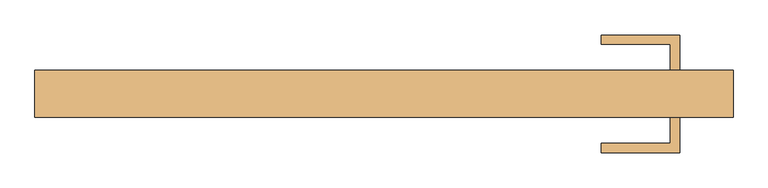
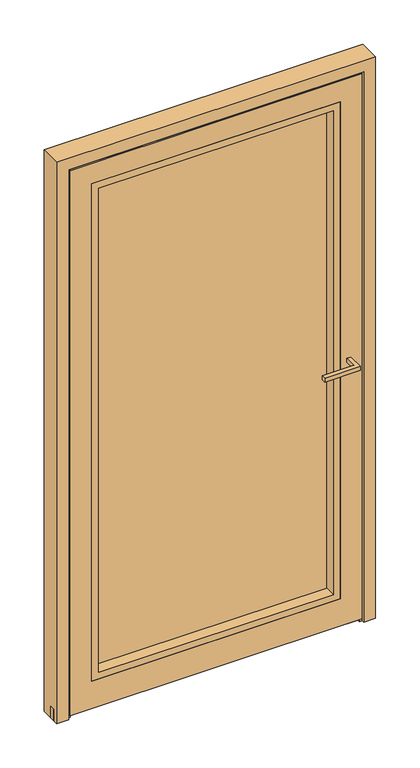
"""IFC4 building model written with IfcOpenShell, lengths in millimetres: door geometry, Reynaers_MasterLine 8_Door_Plinth_Inward Opening_Single Vent : Reynaers_MasterLine 8_Door_Plinth_Inward Opening_Single Vent."""

import ifcopenshell
import ifcopenshell.guid

model = None  # the IFC model being written
_history = None  # IfcOwnerHistory: only IFC2X3 demands one
_inside = {}  # id of a spatial element -> (the spatial element, [elements in it])
_under = {}  # id of a project, library or spatial element -> (it, [spatial elements below it])
_declared = {}  # id of a project -> (the project, [libraries it declares])
_typed = {}  # id of a type object -> (the type object, [elements of that type])
_made_of = {}  # id of a material, layer set ... -> (it, [elements and type objects made of it])


def new_model(schema):
    """Start an empty IFC model of exactly this schema.

    Asked for "IFC4X3", IfcOpenShell would pick the latest addendum, in which some entities
    have other attributes; the version numbers below select the first issue.
    IFC2X3 requires an IfcOwnerHistory on every rooted entity: one is made here for all.
    """
    global model, _history
    if schema == "IFC4X3":
        model = ifcopenshell.file(schema_version=(4, 3, 0, 0))
    else:
        model = ifcopenshell.file(schema=schema)
    _inside.clear()
    _under.clear()
    _declared.clear()
    _typed.clear()
    _made_of.clear()
    _history = None
    if model.schema == "IFC2X3":
        org = make("IfcOrganization", Name="unknown")
        user = make(
            "IfcPersonAndOrganization",
            ThePerson=make("IfcPerson", FamilyName="unknown"),
            TheOrganization=org,
        )
        app = make(
            "IfcApplication",
            ApplicationDeveloper=org,
            Version="unknown",
            ApplicationFullName="unknown",
            ApplicationIdentifier="unknown",
        )
        _history = make(
            "IfcOwnerHistory",
            OwningUser=user,
            OwningApplication=app,
            ChangeAction="ADDED",
            CreationDate=0,
        )
    return model


def make(cls, **values):
    """One entity of the class cls with the attributes given. An attribute that is None is left unset."""
    return model.create_entity(
        cls, **{name: value for name, value in values.items() if value is not None}
    )


def rooted(cls, **values):
    """An entity with a GlobalId (a new one), such as an element, a storey or a relation."""
    return make(cls, GlobalId=ifcopenshell.guid.new(), OwnerHistory=_history, **values)


def si_unit(unit_type, name, prefix=None):
    """IfcSIUnit, for example si_unit("LENGTHUNIT", "METRE", prefix="MILLI")."""
    return make("IfcSIUnit", UnitType=unit_type, Prefix=prefix, Name=name)


def assignment(units):
    """IfcUnitAssignment: the units of a project."""
    return None if units is None else make("IfcUnitAssignment", Units=units)


def point(xyz):
    """IfcCartesianPoint."""
    return None if xyz is None else make("IfcCartesianPoint", Coordinates=xyz)


def direction(xyz):
    """IfcDirection."""
    return None if xyz is None else make("IfcDirection", DirectionRatios=xyz)


def frame(location, z_axis=None, x_axis=None):
    """IfcAxis2Placement3D, a coordinate frame: its origin and axes. An axis left out is left unset."""
    return make(
        "IfcAxis2Placement3D",
        Location=point(location),
        Axis=direction(z_axis),
        RefDirection=direction(x_axis),
    )


def origin():
    """The frame at (0, 0, 0) with its axes left unset."""
    return frame((0.0, 0.0, 0.0))


def place(relative_to, where):
    """IfcLocalPlacement: puts the frame where relative to a parent placement (None: the world)."""
    return make(
        "IfcLocalPlacement", PlacementRelTo=relative_to, RelativePlacement=where
    )


def context(
    kind, dimensions, precision=None, world=None, true_north=None, identifier=None
):
    """IfcGeometricRepresentationContext, for example the 3D "Model" context."""
    return make(
        "IfcGeometricRepresentationContext",
        ContextIdentifier=identifier,
        ContextType=kind,
        CoordinateSpaceDimension=dimensions,
        Precision=precision,
        WorldCoordinateSystem=world,
        TrueNorth=true_north,
    )


def project(units=None, contexts=None):
    """IfcProject with its units and contexts."""
    return rooted(
        "IfcProject",
        Name="project",
        RepresentationContexts=contexts,
        UnitsInContext=assignment(units),
    )


def spatial(cls, under=None, at=None, **own):
    """A site, building, storey or space (cls), placed at a placement, below another one or the project."""
    s = rooted(cls, ObjectPlacement=at, **own)
    if under is not None:
        _under.setdefault(under.id(), (under, []))[1].append(s)
    return s


def polyline(points):
    """IfcPolyline through the points."""
    return make("IfcPolyline", Points=[point(p) for p in points])


def outline(outer, holes=None, kind="AREA"):
    """IfcArbitraryClosedProfileDef: a profile drawn as a closed curve; with holes, ...WithVoids."""
    if holes is None:
        return make("IfcArbitraryClosedProfileDef", ProfileType=kind, OuterCurve=outer)
    return make(
        "IfcArbitraryProfileDefWithVoids",
        ProfileType=kind,
        OuterCurve=outer,
        InnerCurves=holes,
    )


def extrude(swept, where, along, depth):
    """IfcExtrudedAreaSolid: the profile swept, set in the frame where, extruded along a direction by depth."""
    return make(
        "IfcExtrudedAreaSolid",
        SweptArea=swept,
        Position=where,
        ExtrudedDirection=direction(along),
        Depth=depth,
    )


def faces_of(points, faces, orient=None, outer=None):
    """IfcFace entities. A face is a list of loops; a loop is a list of indices into points, from 0.

    orient and outer hold one flag for each loop. By default every Orientation is true, the
    first loop of a face is its IfcFaceOuterBound and the others are IfcFaceBound.
    """
    made = []
    for i, loops in enumerate(faces):
        bounds = []
        for j, loop in enumerate(loops):
            is_outer = j == 0 if outer is None else outer[i][j]
            bounds.append(
                make(
                    "IfcFaceOuterBound" if is_outer else "IfcFaceBound",
                    Bound=make("IfcPolyLoop", Polygon=[points[k] for k in loop]),
                    Orientation=True if orient is None else orient[i][j],
                )
            )
        made.append(make("IfcFace", Bounds=bounds))
    return made


def faceted_brep(points, faces, orient=None, outer=None, voids=None):
    """IfcFacetedBrep: a solid bounded by flat faces; with voids (closed shells), ...WithVoids."""
    shared = [point(p) for p in points]
    hull = make("IfcClosedShell", CfsFaces=faces_of(shared, faces, orient, outer))
    if voids is None:
        return make("IfcFacetedBrep", Outer=hull)
    return make(
        "IfcFacetedBrepWithVoids",
        Outer=hull,
        Voids=[
            make(cls, CfsFaces=faces_of(shared, fs, o, b)) for cls, fs, o, b in voids
        ],
    )


def shape(context_of_items, identifier, shape_type, items):
    """IfcShapeRepresentation: the items that make up one representation, for example the "Body"."""
    return make(
        "IfcShapeRepresentation",
        ContextOfItems=context_of_items,
        RepresentationIdentifier=identifier,
        RepresentationType=shape_type,
        Items=items,
    )


def source(mapping_origin, context_of_items, identifier, shape_type, items):
    """IfcRepresentationMap: a shape defined once, which mapped items show again and again."""
    return make(
        "IfcRepresentationMap",
        MappingOrigin=mapping_origin,
        MappedRepresentation=shape(context_of_items, identifier, shape_type, items),
    )


def transform(
    local_origin,
    x_axis=None,
    y_axis=None,
    z_axis=None,
    scale=None,
    scale2=None,
    scale3=None,
    uniform=True,
):
    """IfcCartesianTransformationOperator3D, or its non-uniform kind. x_axis, y_axis, z_axis: its Axis1, 2, 3."""
    if uniform:
        return make(
            "IfcCartesianTransformationOperator3D",
            Axis1=direction(x_axis),
            Axis2=direction(y_axis),
            LocalOrigin=point(local_origin),
            Scale=scale,
            Axis3=direction(z_axis),
        )
    return make(
        "IfcCartesianTransformationOperator3DnonUniform",
        Axis1=direction(x_axis),
        Axis2=direction(y_axis),
        LocalOrigin=point(local_origin),
        Scale=scale,
        Axis3=direction(z_axis),
        Scale2=scale2,
        Scale3=scale3,
    )


def mapped(mapping_source, mapping_target):
    """IfcMappedItem: shows the shape of a source again, moved by a transform."""
    return make(
        "IfcMappedItem", MappingSource=mapping_source, MappingTarget=mapping_target
    )


def made_of(thing, what):
    """Note that an element or type object is made of a material, layer set ...; save() writes the relation."""
    if what is not None:
        _made_of.setdefault(what.id(), (what, []))[1].append(thing)
    return thing


def element(
    cls,
    number,
    at=None,
    inside=None,
    cuts=None,
    type_object=None,
    material=None,
    context=None,
    identifier="Body",
    shape_type=None,
    held_by="IfcProductDefinitionShape",
    body=None,
    shapes=None,
    **own,
):
    """One element of the class cls, such as IfcWall. Its Tag is "e" and its number.

    at: its placement. inside: the storey or other place that contains it. cuts: it is an
    opening in that element (IfcRelVoidsElement). A single representation is given by context,
    identifier, shape_type and body (its items); several are given by shapes. held_by: the class
    of the entity that holds the representations. save() writes the other relations.
    """
    e = rooted(cls, Tag="e%d" % number, ObjectPlacement=at, **own)
    if body is not None:
        shapes = [shape(context, identifier, shape_type, body)]
    if shapes is not None:
        e.Representation = make(held_by, Representations=shapes)
    if inside is not None:
        _inside.setdefault(inside.id(), (inside, []))[1].append(e)
    if cuts is not None:
        rooted(
            "IfcRelVoidsElement", RelatingBuildingElement=cuts, RelatedOpeningElement=e
        )
    if type_object is not None:
        _typed.setdefault(type_object.id(), (type_object, []))[1].append(e)
    return made_of(e, material)


def aggregate(whole, parts):
    """IfcRelAggregates: a whole, such as a stair, and the parts it consists of."""
    return rooted("IfcRelAggregates", RelatingObject=whole, RelatedObjects=parts)


def save(model, path):
    """Write the relations noted so far, then the file.

    IfcRelAggregates (storeys below a building ...), IfcRelContainedInSpatialStructure (elements
    in a storey), IfcRelDefinesByType, IfcRelAssociatesMaterial and IfcRelDeclares: one each for
    every whole, place, type object, material and project.
    """
    for whole, parts in _under.values():
        aggregate(whole, parts)
    for where, things in _inside.values():
        rooted(
            "IfcRelContainedInSpatialStructure",
            RelatedElements=things,
            RelatingStructure=where,
        )
    for kind, things in _typed.values():
        rooted("IfcRelDefinesByType", RelatedObjects=things, RelatingType=kind)
    for what, things in _made_of.values():
        rooted("IfcRelAssociatesMaterial", RelatedObjects=things, RelatingMaterial=what)
    for by, libraries in _declared.values():
        rooted("IfcRelDeclares", RelatingContext=by, RelatedDefinitions=libraries)
    model.write(path)


def door_1cca69b3(model_context):
    return source(origin(), model_context, "Body", "SolidModel", [
        extrude(outline(polyline([(482.5, 53.7), (467.5, 53.7), (467.5, 96.2), (355.0, 96.2), (355.0, 111.2), (482.5, 111.2), (482.5, 53.7)])), frame((0.0, 0.0, 1001.0), z_axis=(0.0, 0.0, 1.0), x_axis=(1.0, 0.0, 0.0)), (0.0, 0.0, 1.0), 15.0),
        extrude(outline(polyline([(482.5, -23.3), (482.5, -80.8), (355.0, -80.8), (355.0, -65.8), (467.5, -65.8), (467.5, -23.3), (482.5, -23.3)])), frame((0.0, 0.0, 1001.0), z_axis=(0.0, 0.0, 1.0), x_axis=(1.0, 0.0, 0.0)), (0.0, 0.0, 1.0), 15.0),
        extrude(outline(polyline([(436.0, 45.7), (436.0, 21.7), (-436.0, 21.7), (-436.0, 45.7), (436.0, 45.7)])), frame((0.0, 0.0, 125.0), z_axis=(0.0, 0.0, 1.0), x_axis=(1.0, 0.0, 0.0)), (0.0, 0.0, 1.0), 1861.0),
        faceted_brep([(-521.5, -23.3, 14.0), (-521.5, -19.5, 14.0), (-506.5, -19.5, 14.0), (-506.5, -19.3036628, 14.0), (506.5, -19.3036628, 14.0), (506.5, -19.5, 14.0), (521.5, -19.5, 14.0), (521.5, -23.3, 14.0), (-495.5, 49.9, 14.0), (-495.5, 53.7, 14.0), (495.5, 53.7, 14.0), (495.5, 49.9, 14.0), (521.5, -23.3, 2071.5), (-521.5, -23.3, 2071.5), (444.0000003, -23.3, 1994.0000003), (444.0000003, -23.3, 117.0), (-444.0000003, -23.3, 117.0), (-444.0000003, -23.3, 1994.0000003), (-521.5, -19.5, 2071.5), (-521.5, -19.5, 44.0), (-521.5, -21.3, 44.0), (-521.5, -21.3, 15.5), (-521.5, -19.5, 15.5), (-506.5, -19.5, 15.5), (506.5, -19.5, 15.5), (521.5, -19.5, 15.5), (521.5, -19.5, 2071.5), (521.5, -19.5, 44.0), (506.5, -19.5, 44.0), (506.5, -19.5, 2056.5), (-506.5, -19.5, 2056.5), (-506.5, -19.5, 44.0), (-506.5, -19.3036628, 15.5), (-506.5, 44.9001837, 2056.5), (-506.5, 44.9001837, 44.0), (506.5, 44.9001837, 2056.5), (506.5, 44.9001837, 44.0), (495.5, 44.9001837, 44.0), (495.5, 44.9001837, 2045.5), (-495.5, 44.9001837, 2045.5), (-495.5, 44.9001837, 44.0), (-495.5, 53.7, 2045.5), (-495.5, 49.9, 15.5), (-495.5, 51.7000025, 15.5), (-495.5, 51.7000025, 44.0), (495.5, 53.7, 2045.5), (-417.0, 53.7, 1967.0), (-417.0, 53.7, 144.0), (417.0, 53.7, 144.0), (417.0, 53.7, 1967.0), (-417.0, 49.7, 1967.0), (-417.0, 49.7, 144.0), (444.0000003, 49.7, 1994.0000003), (-444.0000003, 49.7, 1994.0000003), (-444.0000003, 49.7, 117.0), (444.0000003, 49.7, 117.0), (417.0, 49.7, 1967.0), (417.0, 49.7, 144.0), (521.5, -21.3, 15.5), (521.5, -21.3, 44.0), (506.5, -19.3036628, 15.5), (495.5, 51.7000025, 44.0), (495.5, 51.7000025, 15.5), (495.5, 49.9, 15.5)], [[[0, 1, 2, 3, 4, 5, 6, 7]], [[8, 9, 10, 11]], [[0, 7, 12, 13], [14, 15, 16, 17]], [[1, 0, 13, 18, 19, 20, 21, 22]], [[2, 1, 22, 23]], [[6, 5, 24, 25]], [[18, 26, 27, 28, 29, 30, 31, 19]], [[3, 2, 23, 32]], [[30, 33, 34, 31]], [[33, 35, 36, 37, 38, 39, 40, 34]], [[39, 41, 9, 8, 42, 43, 44, 40]], [[10, 9, 41, 45], [46, 47, 48, 49]], [[46, 50, 51, 47]], [[52, 53, 54, 55], [50, 56, 57, 51]], [[54, 53, 17, 16]], [[13, 12, 26, 18]], [[30, 29, 35, 33]], [[39, 38, 45, 41]], [[46, 49, 56, 50]], [[14, 17, 53, 52]], [[7, 6, 25, 58, 59, 27, 26, 12]], [[5, 4, 60, 24]], [[35, 29, 28, 36]], [[10, 45, 38, 37, 61, 62, 63, 11]], [[56, 49, 48, 57]], [[14, 52, 55, 15]], [[20, 19, 31, 34, 40, 44, 61, 37, 36, 28, 27, 59]], [[61, 44, 43, 62]], [[62, 43, 42, 63]], [[63, 42, 8, 11]], [[60, 4, 3, 32]], [[60, 32, 23, 22, 21, 58, 25, 24]], [[20, 59, 58, 21]], [[16, 15, 55, 54]], [[51, 57, 48, 47]]]),
        extrude(outline(polyline([(-570.0, -5.9979496), (-570.0, 13.8074908), (570.0, 13.8074908), (570.0, -5.9979496), (-570.0, -5.9979496)])), frame((0.0, 0.0, 1.0), z_axis=(0.0, 0.0, 1.0), x_axis=(1.0, 0.0, 0.0)), (0.0, 0.0, 1.0), 42.9965932),
        extrude(outline(polyline([(116.9999997, -444.0000003), (116.9999997, 444.0000003), (1994.0000003, 444.0000003), (1994.0000003, -444.0000003), (116.9999997, -444.0000003)]), holes=[polyline([(1969.0000232, -419.0000232), (1969.0000232, 419.0000232), (141.9999768, 419.0000232), (141.9999768, -419.0000232), (1969.0000232, -419.0000232)])]), frame((0.0, -23.3, 0.0), z_axis=(0.0, 1.0, 0.0), x_axis=(0.0, 0.0, 1.0)), (0.0, 0.0, 1.0), 40.2),
        faceted_brep([(-501.5, 49.9, 0.0), (-516.5, 49.9, 0.0), (-516.5, -14.4998163, 0.0), (-527.5, -14.4998163, 0.0), (-527.5, -23.3, 0.0), (-570.0, -23.3, 0.0), (-570.0, 53.7, 0.0), (-501.5, 53.7, 0.0), (501.5, 49.9, 0.0), (501.5, 53.7, 0.0), (570.0, 53.7, 0.0), (570.0, -23.3, 0.0), (527.5, -23.3, 0.0), (527.5, -14.4998163, 0.0), (516.5, -14.4998163, 0.0), (516.5, 49.9, 0.0), (-501.5, 49.9, 2051.5), (501.5, 49.9, 2051.5), (516.5, 49.9, 2066.5), (-516.5, 49.9, 2066.5), (-516.5, -14.4998163, 2066.5), (516.5, -14.4998163, 2066.5), (527.5, -14.4998163, 2077.5), (-527.5, -14.4998163, 2077.5), (-527.5, -23.3, 2077.5), (527.5, -23.3, 2077.5), (570.0, -23.3, 2120.0), (-570.0, -23.3, 2120.0), (-570.0, 53.7, 2120.0), (570.0, 53.7, 2120.0), (501.5, 53.7, 2051.5), (-501.5, 53.7, 2051.5)], [[[0, 1, 2, 3, 4, 5, 6, 7]], [[8, 9, 10, 11, 12, 13, 14, 15]], [[1, 0, 16, 17, 8, 15, 18, 19]], [[2, 1, 19, 20]], [[3, 2, 20, 21, 14, 13, 22, 23]], [[4, 3, 23, 24]], [[5, 4, 24, 25, 12, 11, 26, 27]], [[6, 5, 27, 28]], [[7, 6, 28, 29, 10, 9, 30, 31]], [[0, 7, 31, 16]], [[20, 19, 18, 21]], [[24, 23, 22, 25]], [[28, 27, 26, 29]], [[16, 31, 30, 17]], [[21, 18, 15, 14]], [[25, 22, 13, 12]], [[29, 26, 11, 10]], [[17, 30, 9, 8]]]),
    ])


if __name__ == "__main__":
    model = new_model("IFC4")
    model_context = context("Model", 3, world=origin())
    ifc_project = project(units=[si_unit("LENGTHUNIT", "METRE", prefix="MILLI")], contexts=[model_context])
    site = spatial("IfcSite", under=ifc_project)
    building = spatial("IfcBuilding", under=site)
    placement = place(None, origin())
    door_shape = door_1cca69b3(model_context)
    element("IfcDoor", 1, ObjectType="Reynaers_MasterLine 8_Door_Plinth_Inward Opening_Single Vent : Reynaers_MasterLine 8_Door_Plinth_Inward Opening_Single Vent", at=placement, inside=building, context=model_context, shape_type="MappedRepresentation", body=[
        mapped(door_shape, transform((0.0, 0.0, 0.0), x_axis=(1.0, 0.0, 0.0), y_axis=(0.0, 1.0, 0.0), z_axis=(0.0, 0.0, 1.0))),
    ])
    save(model, "model.ifc")
